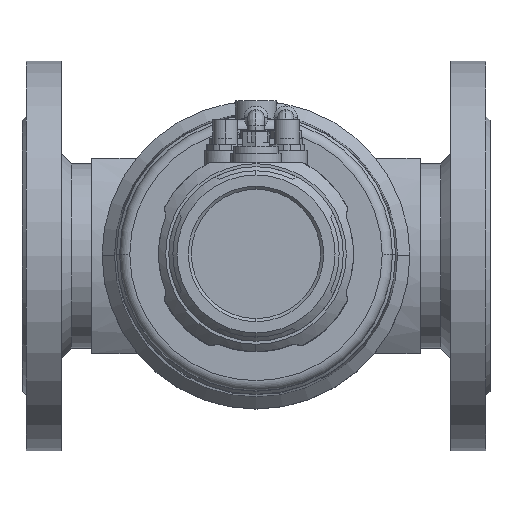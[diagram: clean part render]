
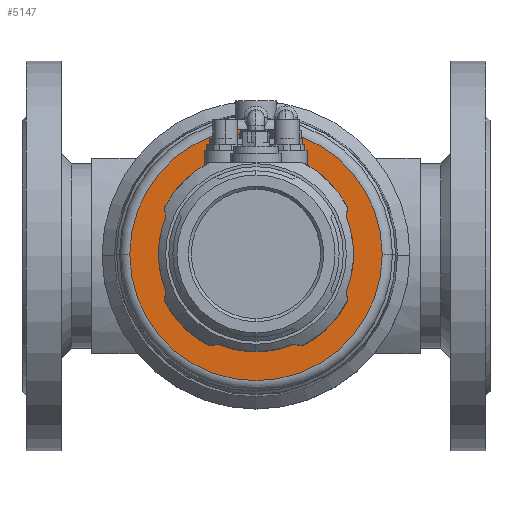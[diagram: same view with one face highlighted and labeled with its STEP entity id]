
A CAD part, top view. The second image highlights one B-rep face of the part: STEP entity #5147.
In plain terms, the highlighted planar face has unit normal (0, 0, 1).
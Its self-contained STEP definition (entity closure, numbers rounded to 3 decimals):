
#4255=CARTESIAN_POINT('',(0.,0.,285.));
#4256=DIRECTION('',(0.,0.,1.));
#4257=DIRECTION('',(-1.,0.,0.));
#4258=AXIS2_PLACEMENT_3D('',#4255,#4256,#4257);
#4260=CARTESIAN_POINT('',(0.,0.,285.));
#4261=DIRECTION('',(0.,0.,1.));
#4262=DIRECTION('',(1.,0.,0.));
#4263=AXIS2_PLACEMENT_3D('',#4260,#4261,#4262);
#4265=DIRECTION('',(0.866,0.5,0.));
#4266=VECTOR('',#4265,12.702);
#4267=CARTESIAN_POINT('',(0.,-12.702,285.));
#4268=LINE('',#4267,#4266);
#4269=DIRECTION('',(0.,1.,0.));
#4270=VECTOR('',#4269,12.702);
#4271=CARTESIAN_POINT('',(11.,-6.351,285.));
#4272=LINE('',#4271,#4270);
#4273=DIRECTION('',(-0.866,0.5,0.));
#4274=VECTOR('',#4273,12.702);
#4275=CARTESIAN_POINT('',(11.,6.351,285.));
#4276=LINE('',#4275,#4274);
#4277=DIRECTION('',(-0.866,-0.5,0.));
#4278=VECTOR('',#4277,12.702);
#4279=CARTESIAN_POINT('',(0.,12.702,285.));
#4280=LINE('',#4279,#4278);
#4281=DIRECTION('',(0.,-1.,0.));
#4282=VECTOR('',#4281,12.702);
#4283=CARTESIAN_POINT('',(-11.,6.351,285.));
#4284=LINE('',#4283,#4282);
#4285=DIRECTION('',(0.866,-0.5,0.));
#4286=VECTOR('',#4285,12.702);
#4287=CARTESIAN_POINT('',(-11.,-6.351,285.));
#4288=LINE('',#4287,#4286);
#4726=CARTESIAN_POINT('',(-61.5,0.,285.));
#4727=CARTESIAN_POINT('',(61.5,0.,285.));
#4728=VERTEX_POINT('',#4726);
#4729=VERTEX_POINT('',#4727);
#4790=CARTESIAN_POINT('',(0.,-12.702,285.));
#4791=CARTESIAN_POINT('',(11.,-6.351,285.));
#4792=VERTEX_POINT('',#4790);
#4793=VERTEX_POINT('',#4791);
#4794=CARTESIAN_POINT('',(11.,6.351,285.));
#4795=VERTEX_POINT('',#4794);
#4796=CARTESIAN_POINT('',(0.,12.702,285.));
#4797=VERTEX_POINT('',#4796);
#4798=CARTESIAN_POINT('',(-11.,6.351,285.));
#4799=VERTEX_POINT('',#4798);
#4800=CARTESIAN_POINT('',(-11.,-6.351,285.));
#4801=VERTEX_POINT('',#4800);
#5123=CARTESIAN_POINT('',(0.,0.,285.));
#5124=DIRECTION('',(0.,0.,-1.));
#5125=DIRECTION('',(1.,0.,0.));
#5126=AXIS2_PLACEMENT_3D('',#5123,#5124,#5125);
#5127=PLANE('',#5126);
#5129=ORIENTED_EDGE('',*,*,#5128,.F.);
#5130=ORIENTED_EDGE('',*,*,#5113,.F.);
#5131=EDGE_LOOP('',(#5129,#5130));
#5132=FACE_OUTER_BOUND('',#5131,.F.);
#5134=ORIENTED_EDGE('',*,*,#5133,.T.);
#5136=ORIENTED_EDGE('',*,*,#5135,.T.);
#5138=ORIENTED_EDGE('',*,*,#5137,.T.);
#5140=ORIENTED_EDGE('',*,*,#5139,.T.);
#5142=ORIENTED_EDGE('',*,*,#5141,.T.);
#5144=ORIENTED_EDGE('',*,*,#5143,.T.);
#5145=EDGE_LOOP('',(#5134,#5136,#5138,#5140,#5142,#5144));
#5146=FACE_BOUND('',#5145,.F.);
#5147=ADVANCED_FACE('',(#5132,#5146),#5127,.F.);
#4259=CIRCLE('',#4258,61.5);
#4264=CIRCLE('',#4263,61.5);
#5113=EDGE_CURVE('',#4729,#4728,#4264,.T.);
#5128=EDGE_CURVE('',#4728,#4729,#4259,.T.);
#5133=EDGE_CURVE('',#4792,#4793,#4268,.T.);
#5135=EDGE_CURVE('',#4793,#4795,#4272,.T.);
#5137=EDGE_CURVE('',#4795,#4797,#4276,.T.);
#5139=EDGE_CURVE('',#4797,#4799,#4280,.T.);
#5141=EDGE_CURVE('',#4799,#4801,#4284,.T.);
#5143=EDGE_CURVE('',#4801,#4792,#4288,.T.);
